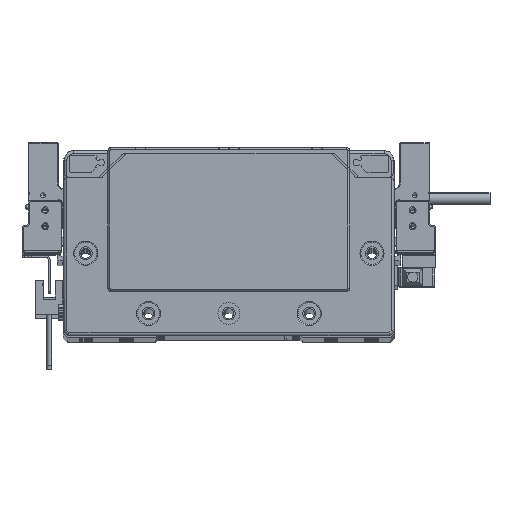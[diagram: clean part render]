
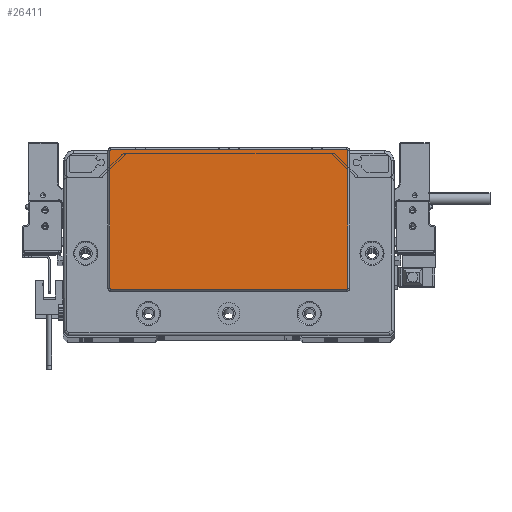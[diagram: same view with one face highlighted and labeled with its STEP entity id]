
A CAD part, top view. The second image highlights one B-rep face of the part: STEP entity #26411.
In plain terms, the highlighted planar face has unit normal (0, 0, 1) as drawn and (0, 0, -1) by its records, which use the part's own axes.
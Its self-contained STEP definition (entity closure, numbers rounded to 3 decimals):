
#1260 = CARTESIAN_POINT ( 'NONE',  ( 58.75, 45.3, -2. ) ) ;
#1516 = CIRCLE ( 'NONE', #67578, 0.5 ) ;
#2789 = VERTEX_POINT ( 'NONE', #72415 ) ;
#4547 = EDGE_CURVE ( 'NONE', #13419, #51695, #1516, .T. ) ;
#6041 = DIRECTION ( 'NONE',  ( -1., 0., 0. ) ) ;
#6210 = EDGE_CURVE ( 'NONE', #95178, #18235, #94010, .T. ) ;
#6232 = CARTESIAN_POINT ( 'NONE',  ( -58.75, -23.8, -2. ) ) ;
#6743 = LINE ( 'NONE', #101463, #80387 ) ;
#9034 = DIRECTION ( 'NONE',  ( -1., 0., 0. ) ) ;
#12215 = ORIENTED_EDGE ( 'NONE', *, *, #71797, .T. ) ;
#12219 = EDGE_CURVE ( 'NONE', #22269, #13419, #29019, .T. ) ;
#12269 = ORIENTED_EDGE ( 'NONE', *, *, #12351, .T. ) ;
#12351 = EDGE_CURVE ( 'NONE', #18235, #95826, #6743, .T. ) ;
#13419 = VERTEX_POINT ( 'NONE', #63185 ) ;
#15942 = EDGE_CURVE ( 'NONE', #95826, #84009, #51057, .T. ) ;
#16054 = DIRECTION ( 'NONE',  ( 1., 0., 0. ) ) ;
#16520 = CARTESIAN_POINT ( 'NONE',  ( -59.25, 45.3, -2. ) ) ;
#18235 = VERTEX_POINT ( 'NONE', #75307 ) ;
#18834 = VECTOR ( 'NONE', #31229, 1000. ) ;
#18959 = CARTESIAN_POINT ( 'NONE',  ( -59.25, -23.3, -2. ) ) ;
#22269 = VERTEX_POINT ( 'NONE', #99760 ) ;
#23058 = DIRECTION ( 'NONE',  ( 0., 0., -1. ) ) ;
#24868 = DIRECTION ( 'NONE',  ( 0., -1., 0. ) ) ;
#25639 = ORIENTED_EDGE ( 'NONE', *, *, #15942, .T. ) ;
#26288 = AXIS2_PLACEMENT_3D ( 'NONE', #1260, #88165, #9034 ) ;
#26411 = ADVANCED_FACE ( 'NONE', ( #97573 ), #66982, .T. ) ;
#28052 = ORIENTED_EDGE ( 'NONE', *, *, #4547, .T. ) ;
#28720 = DIRECTION ( 'NONE',  ( 0., 0., -1. ) ) ;
#29019 = LINE ( 'NONE', #6232, #88679 ) ;
#29175 = CIRCLE ( 'NONE', #77076, 0.5 ) ;
#31229 = DIRECTION ( 'NONE',  ( 0., 1., 0. ) ) ;
#35368 = ORIENTED_EDGE ( 'NONE', *, *, #38718, .T. ) ;
#38718 = EDGE_CURVE ( 'NONE', #2789, #22269, #29175, .T. ) ;
#46709 = CARTESIAN_POINT ( 'NONE',  ( -59.25, 45.3, -2. ) ) ;
#46834 = DIRECTION ( 'NONE',  ( -1., 0., 0. ) ) ;
#48765 = ORIENTED_EDGE ( 'NONE', *, *, #12219, .T. ) ;
#48870 = CARTESIAN_POINT ( 'NONE',  ( 58.75, -23.3, -2. ) ) ;
#51057 = CIRCLE ( 'NONE', #26288, 0.5 ) ;
#51438 = CARTESIAN_POINT ( 'NONE',  ( 59.25, 45.3, -2. ) ) ;
#51463 = DIRECTION ( 'NONE',  ( -1., 0., 0. ) ) ;
#51695 = VERTEX_POINT ( 'NONE', #18959 ) ;
#55433 = CARTESIAN_POINT ( 'NONE',  ( 58.75, 45.8, -2. ) ) ;
#61111 = DIRECTION ( 'NONE',  ( -1., 0., 0. ) ) ;
#62580 = AXIS2_PLACEMENT_3D ( 'NONE', #92191, #82889, #61111 ) ;
#63185 = CARTESIAN_POINT ( 'NONE',  ( -58.75, -23.8, -2. ) ) ;
#64153 = LINE ( 'NONE', #95771, #79712 ) ;
#66982 = PLANE ( 'NONE',  #87175 ) ;
#67280 = DIRECTION ( 'NONE',  ( -1., 0., 0. ) ) ;
#67578 = AXIS2_PLACEMENT_3D ( 'NONE', #90918, #68616, #6041 ) ;
#68616 = DIRECTION ( 'NONE',  ( 0., 0., -1. ) ) ;
#68839 = ORIENTED_EDGE ( 'NONE', *, *, #86724, .T. ) ;
#71797 = EDGE_CURVE ( 'NONE', #51695, #95178, #92817, .T. ) ;
#72415 = CARTESIAN_POINT ( 'NONE',  ( 59.25, -23.3, -2. ) ) ;
#75307 = CARTESIAN_POINT ( 'NONE',  ( -58.75, 45.8, -2. ) ) ;
#77076 = AXIS2_PLACEMENT_3D ( 'NONE', #48870, #23058, #46834 ) ;
#77093 = EDGE_LOOP ( 'NONE', ( #68839, #35368, #48765, #28052, #12215, #88905, #12269, #25639 ) ) ;
#79712 = VECTOR ( 'NONE', #24868, 1000. ) ;
#80387 = VECTOR ( 'NONE', #16054, 1000. ) ;
#82889 = DIRECTION ( 'NONE',  ( 0., 0., -1. ) ) ;
#84009 = VERTEX_POINT ( 'NONE', #51438 ) ;
#86724 = EDGE_CURVE ( 'NONE', #84009, #2789, #64153, .T. ) ;
#87175 = AXIS2_PLACEMENT_3D ( 'NONE', #89787, #28720, #51463 ) ;
#88165 = DIRECTION ( 'NONE',  ( 0., 0., -1. ) ) ;
#88679 = VECTOR ( 'NONE', #67280, 1000. ) ;
#88905 = ORIENTED_EDGE ( 'NONE', *, *, #6210, .T. ) ;
#89787 = CARTESIAN_POINT ( 'NONE',  ( 0., 0., -2. ) ) ;
#90918 = CARTESIAN_POINT ( 'NONE',  ( -58.75, -23.3, -2. ) ) ;
#92191 = CARTESIAN_POINT ( 'NONE',  ( -58.75, 45.3, -2. ) ) ;
#92817 = LINE ( 'NONE', #46709, #18834 ) ;
#94010 = CIRCLE ( 'NONE', #62580, 0.5 ) ;
#95178 = VERTEX_POINT ( 'NONE', #16520 ) ;
#95771 = CARTESIAN_POINT ( 'NONE',  ( 59.25, -23.3, -2. ) ) ;
#95826 = VERTEX_POINT ( 'NONE', #55433 ) ;
#97573 = FACE_OUTER_BOUND ( 'NONE', #77093, .T. ) ;
#99760 = CARTESIAN_POINT ( 'NONE',  ( 58.75, -23.8, -2. ) ) ;
#101463 = CARTESIAN_POINT ( 'NONE',  ( 58.75, 45.8, -2. ) ) ;
